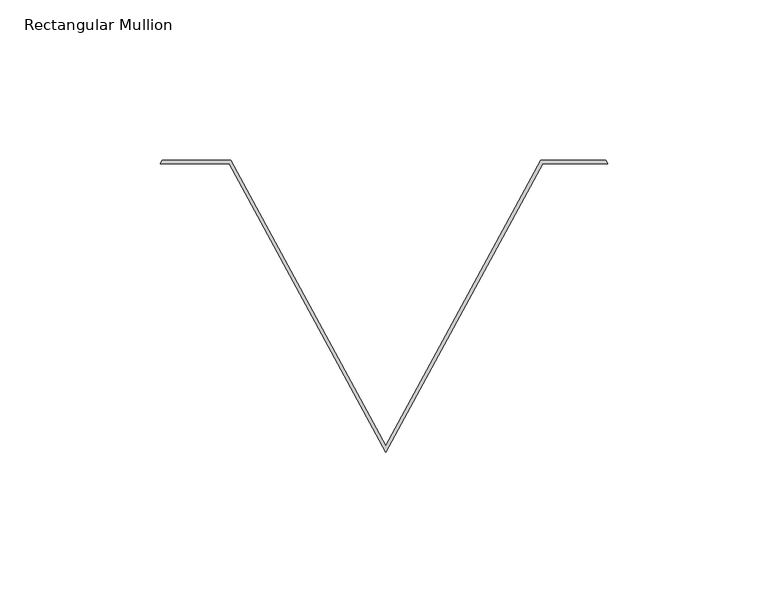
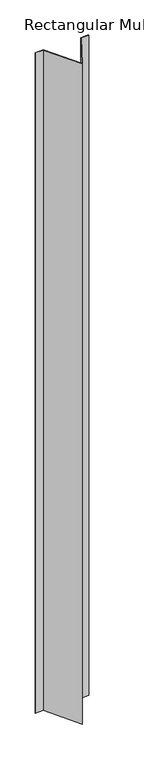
"""IFC4 building model written with IfcOpenShell, lengths in millimetres: member geometry, Rectangular Mullion : CD_NINELINE_Pleat End."""

import ifcopenshell
import ifcopenshell.guid

model = None  # the IFC model being written
_history = None  # IfcOwnerHistory: only IFC2X3 demands one
_inside = {}  # id of a spatial element -> (the spatial element, [elements in it])
_under = {}  # id of a project, library or spatial element -> (it, [spatial elements below it])
_declared = {}  # id of a project -> (the project, [libraries it declares])
_typed = {}  # id of a type object -> (the type object, [elements of that type])
_made_of = {}  # id of a material, layer set ... -> (it, [elements and type objects made of it])


def new_model(schema):
    """Start an empty IFC model of exactly this schema.

    Asked for "IFC4X3", IfcOpenShell would pick the latest addendum, in which some entities
    have other attributes; the version numbers below select the first issue.
    IFC2X3 requires an IfcOwnerHistory on every rooted entity: one is made here for all.
    """
    global model, _history
    if schema == "IFC4X3":
        model = ifcopenshell.file(schema_version=(4, 3, 0, 0))
    else:
        model = ifcopenshell.file(schema=schema)
    _inside.clear()
    _under.clear()
    _declared.clear()
    _typed.clear()
    _made_of.clear()
    _history = None
    if model.schema == "IFC2X3":
        org = make("IfcOrganization", Name="unknown")
        user = make(
            "IfcPersonAndOrganization",
            ThePerson=make("IfcPerson", FamilyName="unknown"),
            TheOrganization=org,
        )
        app = make(
            "IfcApplication",
            ApplicationDeveloper=org,
            Version="unknown",
            ApplicationFullName="unknown",
            ApplicationIdentifier="unknown",
        )
        _history = make(
            "IfcOwnerHistory",
            OwningUser=user,
            OwningApplication=app,
            ChangeAction="ADDED",
            CreationDate=0,
        )
    return model


def make(cls, **values):
    """One entity of the class cls with the attributes given. An attribute that is None is left unset."""
    return model.create_entity(
        cls, **{name: value for name, value in values.items() if value is not None}
    )


def rooted(cls, **values):
    """An entity with a GlobalId (a new one), such as an element, a storey or a relation."""
    return make(cls, GlobalId=ifcopenshell.guid.new(), OwnerHistory=_history, **values)


def si_unit(unit_type, name, prefix=None):
    """IfcSIUnit, for example si_unit("LENGTHUNIT", "METRE", prefix="MILLI")."""
    return make("IfcSIUnit", UnitType=unit_type, Prefix=prefix, Name=name)


def assignment(units):
    """IfcUnitAssignment: the units of a project."""
    return None if units is None else make("IfcUnitAssignment", Units=units)


def point(xyz):
    """IfcCartesianPoint."""
    return None if xyz is None else make("IfcCartesianPoint", Coordinates=xyz)


def direction(xyz):
    """IfcDirection."""
    return None if xyz is None else make("IfcDirection", DirectionRatios=xyz)


def frame(location, z_axis=None, x_axis=None):
    """IfcAxis2Placement3D, a coordinate frame: its origin and axes. An axis left out is left unset."""
    return make(
        "IfcAxis2Placement3D",
        Location=point(location),
        Axis=direction(z_axis),
        RefDirection=direction(x_axis),
    )


def origin():
    """The frame at (0, 0, 0) with its axes left unset."""
    return frame((0.0, 0.0, 0.0))


def place(relative_to, where):
    """IfcLocalPlacement: puts the frame where relative to a parent placement (None: the world)."""
    return make(
        "IfcLocalPlacement", PlacementRelTo=relative_to, RelativePlacement=where
    )


def context(
    kind, dimensions, precision=None, world=None, true_north=None, identifier=None
):
    """IfcGeometricRepresentationContext, for example the 3D "Model" context."""
    return make(
        "IfcGeometricRepresentationContext",
        ContextIdentifier=identifier,
        ContextType=kind,
        CoordinateSpaceDimension=dimensions,
        Precision=precision,
        WorldCoordinateSystem=world,
        TrueNorth=true_north,
    )


def project(units=None, contexts=None):
    """IfcProject with its units and contexts."""
    return rooted(
        "IfcProject",
        Name="project",
        RepresentationContexts=contexts,
        UnitsInContext=assignment(units),
    )


def spatial(cls, under=None, at=None, **own):
    """A site, building, storey or space (cls), placed at a placement, below another one or the project."""
    s = rooted(cls, ObjectPlacement=at, **own)
    if under is not None:
        _under.setdefault(under.id(), (under, []))[1].append(s)
    return s


def polyline(points):
    """IfcPolyline through the points."""
    return make("IfcPolyline", Points=[point(p) for p in points])


def outline(outer, holes=None, kind="AREA"):
    """IfcArbitraryClosedProfileDef: a profile drawn as a closed curve; with holes, ...WithVoids."""
    if holes is None:
        return make("IfcArbitraryClosedProfileDef", ProfileType=kind, OuterCurve=outer)
    return make(
        "IfcArbitraryProfileDefWithVoids",
        ProfileType=kind,
        OuterCurve=outer,
        InnerCurves=holes,
    )


def extrude(swept, where, along, depth):
    """IfcExtrudedAreaSolid: the profile swept, set in the frame where, extruded along a direction by depth."""
    return make(
        "IfcExtrudedAreaSolid",
        SweptArea=swept,
        Position=where,
        ExtrudedDirection=direction(along),
        Depth=depth,
    )


def shape(context_of_items, identifier, shape_type, items):
    """IfcShapeRepresentation: the items that make up one representation, for example the "Body"."""
    return make(
        "IfcShapeRepresentation",
        ContextOfItems=context_of_items,
        RepresentationIdentifier=identifier,
        RepresentationType=shape_type,
        Items=items,
    )


def source(mapping_origin, context_of_items, identifier, shape_type, items):
    """IfcRepresentationMap: a shape defined once, which mapped items show again and again."""
    return make(
        "IfcRepresentationMap",
        MappingOrigin=mapping_origin,
        MappedRepresentation=shape(context_of_items, identifier, shape_type, items),
    )


def transform(
    local_origin,
    x_axis=None,
    y_axis=None,
    z_axis=None,
    scale=None,
    scale2=None,
    scale3=None,
    uniform=True,
):
    """IfcCartesianTransformationOperator3D, or its non-uniform kind. x_axis, y_axis, z_axis: its Axis1, 2, 3."""
    if uniform:
        return make(
            "IfcCartesianTransformationOperator3D",
            Axis1=direction(x_axis),
            Axis2=direction(y_axis),
            LocalOrigin=point(local_origin),
            Scale=scale,
            Axis3=direction(z_axis),
        )
    return make(
        "IfcCartesianTransformationOperator3DnonUniform",
        Axis1=direction(x_axis),
        Axis2=direction(y_axis),
        LocalOrigin=point(local_origin),
        Scale=scale,
        Axis3=direction(z_axis),
        Scale2=scale2,
        Scale3=scale3,
    )


def mapped(mapping_source, mapping_target):
    """IfcMappedItem: shows the shape of a source again, moved by a transform."""
    return make(
        "IfcMappedItem", MappingSource=mapping_source, MappingTarget=mapping_target
    )


def made_of(thing, what):
    """Note that an element or type object is made of a material, layer set ...; save() writes the relation."""
    if what is not None:
        _made_of.setdefault(what.id(), (what, []))[1].append(thing)
    return thing


def element(
    cls,
    number,
    at=None,
    inside=None,
    cuts=None,
    type_object=None,
    material=None,
    context=None,
    identifier="Body",
    shape_type=None,
    held_by="IfcProductDefinitionShape",
    body=None,
    shapes=None,
    **own,
):
    """One element of the class cls, such as IfcWall. Its Tag is "e" and its number.

    at: its placement. inside: the storey or other place that contains it. cuts: it is an
    opening in that element (IfcRelVoidsElement). A single representation is given by context,
    identifier, shape_type and body (its items); several are given by shapes. held_by: the class
    of the entity that holds the representations. save() writes the other relations.
    """
    e = rooted(cls, Tag="e%d" % number, ObjectPlacement=at, **own)
    if body is not None:
        shapes = [shape(context, identifier, shape_type, body)]
    if shapes is not None:
        e.Representation = make(held_by, Representations=shapes)
    if inside is not None:
        _inside.setdefault(inside.id(), (inside, []))[1].append(e)
    if cuts is not None:
        rooted(
            "IfcRelVoidsElement", RelatingBuildingElement=cuts, RelatedOpeningElement=e
        )
    if type_object is not None:
        _typed.setdefault(type_object.id(), (type_object, []))[1].append(e)
    return made_of(e, material)


def aggregate(whole, parts):
    """IfcRelAggregates: a whole, such as a stair, and the parts it consists of."""
    return rooted("IfcRelAggregates", RelatingObject=whole, RelatedObjects=parts)


def save(model, path):
    """Write the relations noted so far, then the file.

    IfcRelAggregates (storeys below a building ...), IfcRelContainedInSpatialStructure (elements
    in a storey), IfcRelDefinesByType, IfcRelAssociatesMaterial and IfcRelDeclares: one each for
    every whole, place, type object, material and project.
    """
    for whole, parts in _under.values():
        aggregate(whole, parts)
    for where, things in _inside.values():
        rooted(
            "IfcRelContainedInSpatialStructure",
            RelatedElements=things,
            RelatingStructure=where,
        )
    for kind, things in _typed.values():
        rooted("IfcRelDefinesByType", RelatedObjects=things, RelatingType=kind)
    for what, things in _made_of.values():
        rooted("IfcRelAssociatesMaterial", RelatedObjects=things, RelatingMaterial=what)
    for by, libraries in _declared.values():
        rooted("IfcRelDeclares", RelatingContext=by, RelatedDefinitions=libraries)
    model.write(path)


def rectangular_mullion_6c8a53db(model_context):
    return source(origin(), model_context, "Body", "SweptSolid", [
        extrude(outline(polyline([(-138.8729579, 0.0), (-117.4072161, 0.0), (-69.1383234, -88.9018164), (-20.8694306, 0.0), (-0.5429557, 0.0), (0.0, -1.0), (-20.272258, -1.0), (-69.1382709, -91.0), (-118.0042839, -1.0), (-139.415904, -1.0), (-138.8729579, 0.0)])), frame((0.0, 0.0, -1812.9375), z_axis=(0.0, 0.0, 1.0), x_axis=(1.0, 0.0, 0.0)), (0.0, 0.0, 1.0), 1812.9375),
    ])


if __name__ == "__main__":
    model = new_model("IFC4")
    model_context = context("Model", 3, world=origin())
    ifc_project = project(units=[si_unit("LENGTHUNIT", "METRE", prefix="MILLI")], contexts=[model_context])
    site = spatial("IfcSite", under=ifc_project)
    building = spatial("IfcBuilding", under=site)
    placement = place(None, origin())
    rectangular_mullion_shape = rectangular_mullion_6c8a53db(model_context)
    element("IfcMember", 1, ObjectType="Rectangular Mullion : CD_NINELINE_Pleat End", at=placement, inside=building, context=model_context, shape_type="MappedRepresentation", body=[
        mapped(rectangular_mullion_shape, transform((0.0, 0.0, 0.0), x_axis=(1.0, 0.0, 0.0), y_axis=(0.0, 1.0, 0.0), z_axis=(0.0, 0.0, 1.0))),
    ])
    save(model, "model.ifc")
